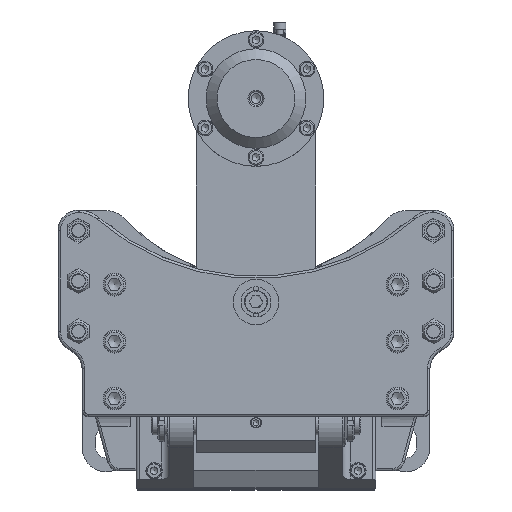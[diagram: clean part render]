
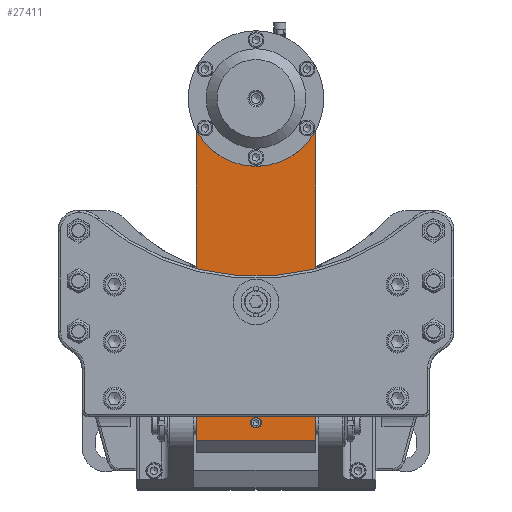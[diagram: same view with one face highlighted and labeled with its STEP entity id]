
A CAD part, top view. The second image highlights one B-rep face of the part: STEP entity #27411.
In plain terms, the highlighted planar face has unit normal (0, 0, 1).
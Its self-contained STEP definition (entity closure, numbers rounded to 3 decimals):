
#1055=FACE_BOUND('',#4215,.T.);
#1056=FACE_BOUND('',#4216,.T.);
#1583=PLANE('',#29551);
#2617=FACE_OUTER_BOUND('',#4214,.T.);
#4214=EDGE_LOOP('',(#20679,#20680,#20681,#20682,#20683,#20684,#20685,#20686,
#20687));
#4215=EDGE_LOOP('',(#20688,#20689));
#4216=EDGE_LOOP('',(#20690,#20691));
#6032=LINE('',#49474,#7944);
#6099=LINE('',#49685,#8011);
#6106=LINE('',#49742,#8018);
#6108=LINE('',#49746,#8020);
#6109=LINE('',#49747,#8021);
#6110=LINE('',#49749,#8022);
#6116=LINE('',#49767,#8028);
#7944=VECTOR('',#34410,10.);
#8011=VECTOR('',#34633,10.);
#8018=VECTOR('',#34646,10.);
#8020=VECTOR('',#34650,10.);
#8021=VECTOR('',#34651,10.);
#8022=VECTOR('',#34654,10.);
#8028=VECTOR('',#34678,10.);
#9171=CIRCLE('',#28475,47.5);
#9173=CIRCLE('',#28477,47.5);
#9277=CIRCLE('',#28676,9.9);
#9278=CIRCLE('',#28677,9.9);
#9685=CIRCLE('',#29546,4.459);
#9686=CIRCLE('',#29547,4.459);
#10766=VERTEX_POINT('',#39920);
#10767=VERTEX_POINT('',#39922);
#10768=VERTEX_POINT('',#39924);
#10935=VERTEX_POINT('',#42518);
#10936=VERTEX_POINT('',#42520);
#11713=VERTEX_POINT('',#49471);
#11714=VERTEX_POINT('',#49473);
#11779=VERTEX_POINT('',#49682);
#11780=VERTEX_POINT('',#49684);
#11787=VERTEX_POINT('',#49740);
#11788=VERTEX_POINT('',#49744);
#11790=VERTEX_POINT('',#49754);
#11791=VERTEX_POINT('',#49755);
#13497=EDGE_CURVE('',#10767,#10766,#9171,.T.);
#13499=EDGE_CURVE('',#10766,#10768,#9173,.T.);
#13746=EDGE_CURVE('',#10936,#10935,#9277,.T.);
#13747=EDGE_CURVE('',#10935,#10936,#9278,.T.);
#14895=EDGE_CURVE('',#11714,#11713,#6032,.T.);
#15003=EDGE_CURVE('',#11780,#11779,#6099,.T.);
#15013=EDGE_CURVE('',#11787,#11779,#6106,.T.);
#15015=EDGE_CURVE('',#11788,#10768,#6108,.T.);
#15016=EDGE_CURVE('',#10767,#11787,#6109,.T.);
#15017=EDGE_CURVE('',#11714,#11788,#6110,.T.);
#15019=EDGE_CURVE('',#11790,#11791,#9685,.T.);
#15020=EDGE_CURVE('',#11791,#11790,#9686,.T.);
#15026=EDGE_CURVE('',#11713,#11780,#6116,.T.);
#20679=ORIENTED_EDGE('',*,*,#13499,.T.);
#20680=ORIENTED_EDGE('',*,*,#15015,.F.);
#20681=ORIENTED_EDGE('',*,*,#15017,.F.);
#20682=ORIENTED_EDGE('',*,*,#14895,.T.);
#20683=ORIENTED_EDGE('',*,*,#15026,.T.);
#20684=ORIENTED_EDGE('',*,*,#15003,.T.);
#20685=ORIENTED_EDGE('',*,*,#15013,.F.);
#20686=ORIENTED_EDGE('',*,*,#15016,.F.);
#20687=ORIENTED_EDGE('',*,*,#13497,.T.);
#20688=ORIENTED_EDGE('',*,*,#13746,.T.);
#20689=ORIENTED_EDGE('',*,*,#13747,.T.);
#20690=ORIENTED_EDGE('',*,*,#15019,.T.);
#20691=ORIENTED_EDGE('',*,*,#15020,.T.);
#27411=ADVANCED_FACE('',(#2617,#1055,#1056),#1583,.T.);
#28475=AXIS2_PLACEMENT_3D('',#39923,#31769,#31770);
#28477=AXIS2_PLACEMENT_3D('',#39926,#31773,#31774);
#28676=AXIS2_PLACEMENT_3D('',#42521,#32280,#32281);
#28677=AXIS2_PLACEMENT_3D('',#42522,#32282,#32283);
#29546=AXIS2_PLACEMENT_3D('',#49756,#34661,#34662);
#29547=AXIS2_PLACEMENT_3D('',#49757,#34663,#34664);
#29551=AXIS2_PLACEMENT_3D('',#49766,#34676,#34677);
#31769=DIRECTION('center_axis',(0.,0.,
-1.));
#31770=DIRECTION('ref_axis',(0.,1.,0.));
#31773=DIRECTION('center_axis',(0.,0.,
-1.));
#31774=DIRECTION('ref_axis',(0.,1.,0.));
#32280=DIRECTION('center_axis',(0.,0.,
-1.));
#32281=DIRECTION('ref_axis',(0.,1.,0.));
#32282=DIRECTION('center_axis',(0.,0.,
-1.));
#32283=DIRECTION('ref_axis',(0.,1.,0.));
#34410=DIRECTION('',(0.,-1.,0.));
#34633=DIRECTION('',(0.,1.,0.));
#34646=DIRECTION('',(0.707,-0.707,0.));
#34650=DIRECTION('',(1.,0.,0.));
#34651=DIRECTION('',(1.,0.,0.));
#34654=DIRECTION('',(0.707,0.707,0.));
#34661=DIRECTION('center_axis',(0.,0.,
-1.));
#34662=DIRECTION('ref_axis',(1.,0.,0.));
#34663=DIRECTION('center_axis',(0.,0.,
-1.));
#34664=DIRECTION('ref_axis',(1.,0.,0.));
#34676=DIRECTION('center_axis',(0.,0.,
1.));
#34677=DIRECTION('ref_axis',(1.,0.,0.));
#34678=DIRECTION('',(1.,0.,0.));
#39920=CARTESIAN_POINT('',(0.,217.5,201.6));
#39922=CARTESIAN_POINT('',(15.207,310.,201.6));
#39923=CARTESIAN_POINT('Origin',(0.,265.,201.6));
#39924=CARTESIAN_POINT('',(-15.207,310.,201.6));
#39926=CARTESIAN_POINT('Origin',(0.,265.,201.6));
#42518=CARTESIAN_POINT('',(0.,85.6,201.6));
#42520=CARTESIAN_POINT('',(0.,105.4,201.6));
#42521=CARTESIAN_POINT('Origin',(0.,95.5,
201.6));
#42522=CARTESIAN_POINT('Origin',(0.,95.5,
201.6));
#49471=CARTESIAN_POINT('',(-50.,-20.,201.6));
#49473=CARTESIAN_POINT('',(-50.,290.,201.6));
#49474=CARTESIAN_POINT('',(-50.,310.,201.6));
#49682=CARTESIAN_POINT('',(50.,290.,201.6));
#49684=CARTESIAN_POINT('',(50.,-20.,201.6));
#49685=CARTESIAN_POINT('',(50.,310.,201.6));
#49740=CARTESIAN_POINT('',(30.,310.,201.6));
#49742=CARTESIAN_POINT('',(27.5,312.5,201.6));
#49744=CARTESIAN_POINT('',(-30.,310.,201.6));
#49746=CARTESIAN_POINT('',(0.,310.,201.6));
#49747=CARTESIAN_POINT('',(0.,310.,201.6));
#49749=CARTESIAN_POINT('',(-27.5,312.5,201.6));
#49754=CARTESIAN_POINT('',(4.459,-5.,201.6));
#49755=CARTESIAN_POINT('',(-4.458,-5.,201.6));
#49756=CARTESIAN_POINT('Origin',(0.,-5.,
201.6));
#49757=CARTESIAN_POINT('Origin',(0.,-5.,
201.6));
#49766=CARTESIAN_POINT('Origin',(0.,310.,201.6));
#49767=CARTESIAN_POINT('',(0.,-20.,201.6));
